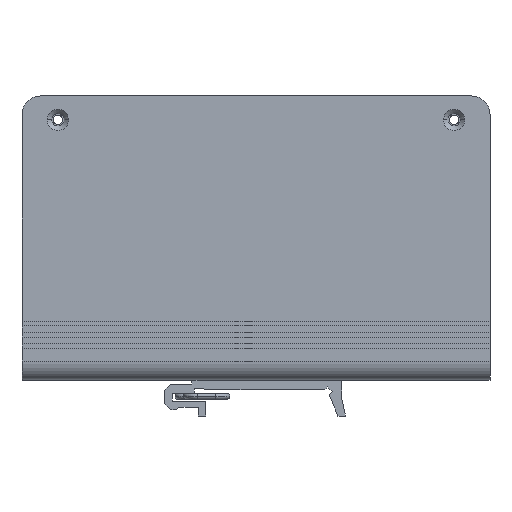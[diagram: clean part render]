
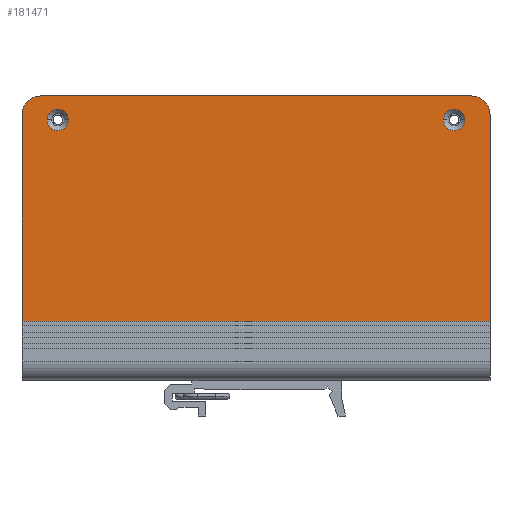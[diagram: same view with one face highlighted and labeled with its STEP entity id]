
A CAD part, front view. The second image highlights one B-rep face of the part: STEP entity #181471.
In plain terms, the highlighted planar face has unit normal (0, -1, 0).
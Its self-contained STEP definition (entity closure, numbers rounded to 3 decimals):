
#169264=DIRECTION('',(0.,0.,-1.));
#169265=VECTOR('',#169264,55.2);
#169266=CARTESIAN_POINT('',(-62.5,-19.75,33.));
#169267=LINE('',#169266,#169265);
#173453=DIRECTION('',(1.,0.,0.));
#173454=VECTOR('',#173453,125.);
#173455=CARTESIAN_POINT('',(-62.5,-19.75,-22.2));
#173456=LINE('',#173455,#173454);
#173457=CARTESIAN_POINT('',(-57.5,-19.75,33.));
#173458=DIRECTION('',(0.,1.,0.));
#173459=DIRECTION('',(-1.,0.,0.));
#173460=AXIS2_PLACEMENT_3D('',#173457,#173458,#173459);
#173462=DIRECTION('',(1.,0.,0.));
#173463=VECTOR('',#173462,115.);
#173464=CARTESIAN_POINT('',(-57.5,-19.75,38.));
#173465=LINE('',#173464,#173463);
#173466=CARTESIAN_POINT('',(57.5,-19.75,33.));
#173467=DIRECTION('',(0.,1.,0.));
#173468=DIRECTION('',(0.,0.,1.));
#173469=AXIS2_PLACEMENT_3D('',#173466,#173467,#173468);
#173471=DIRECTION('',(0.,0.,-1.));
#173472=VECTOR('',#173471,55.2);
#173473=CARTESIAN_POINT('',(62.5,-19.75,33.));
#173474=LINE('',#173473,#173472);
#173475=CARTESIAN_POINT('',(-52.9,-19.75,31.6));
#173476=DIRECTION('',(0.,-1.,0.));
#173477=DIRECTION('',(-1.,0.,0.));
#173478=AXIS2_PLACEMENT_3D('',#173475,#173476,#173477);
#173480=CARTESIAN_POINT('',(-52.9,-19.75,31.6));
#173481=DIRECTION('',(0.,-1.,0.));
#173482=DIRECTION('',(1.,0.,0.));
#173483=AXIS2_PLACEMENT_3D('',#173480,#173481,#173482);
#173485=CARTESIAN_POINT('',(52.9,-19.75,31.6));
#173486=DIRECTION('',(0.,-1.,0.));
#173487=DIRECTION('',(-1.,0.,0.));
#173488=AXIS2_PLACEMENT_3D('',#173485,#173486,#173487);
#173490=CARTESIAN_POINT('',(52.9,-19.75,31.6));
#173491=DIRECTION('',(0.,-1.,0.));
#173492=DIRECTION('',(1.,0.,0.));
#173493=AXIS2_PLACEMENT_3D('',#173490,#173491,#173492);
#175043=CARTESIAN_POINT('',(62.5,-19.75,-22.2));
#175044=VERTEX_POINT('',#175043);
#175045=CARTESIAN_POINT('',(62.5,-19.75,33.));
#175046=VERTEX_POINT('',#175045);
#175091=CARTESIAN_POINT('',(-55.75,-19.75,31.6));
#175092=CARTESIAN_POINT('',(-50.05,-19.75,31.6));
#175093=VERTEX_POINT('',#175091);
#175094=VERTEX_POINT('',#175092);
#175095=CARTESIAN_POINT('',(-62.5,-19.75,33.));
#175096=CARTESIAN_POINT('',(-57.5,-19.75,38.));
#175097=VERTEX_POINT('',#175095);
#175098=VERTEX_POINT('',#175096);
#175099=CARTESIAN_POINT('',(57.5,-19.75,38.));
#175100=VERTEX_POINT('',#175099);
#175101=CARTESIAN_POINT('',(-62.5,-19.75,-22.2));
#175102=VERTEX_POINT('',#175101);
#175103=CARTESIAN_POINT('',(50.05,-19.75,31.6));
#175104=CARTESIAN_POINT('',(55.75,-19.75,31.6));
#175105=VERTEX_POINT('',#175103);
#175106=VERTEX_POINT('',#175104);
#181443=CARTESIAN_POINT('',(62.5,-19.75,-22.2));
#181444=DIRECTION('',(0.,-1.,0.));
#181445=DIRECTION('',(0.,0.,1.));
#181446=AXIS2_PLACEMENT_3D('',#181443,#181444,#181445);
#181447=PLANE('',#181446);
#181449=ORIENTED_EDGE('',*,*,#181448,.T.);
#181451=ORIENTED_EDGE('',*,*,#181450,.T.);
#181453=ORIENTED_EDGE('',*,*,#181452,.T.);
#181454=ORIENTED_EDGE('',*,*,#176655,.T.);
#181455=ORIENTED_EDGE('',*,*,#181438,.F.);
#181456=ORIENTED_EDGE('',*,*,#175716,.F.);
#181457=EDGE_LOOP('',(#181449,#181451,#181453,#181454,#181455,#181456));
#181458=FACE_OUTER_BOUND('',#181457,.F.);
#181460=ORIENTED_EDGE('',*,*,#181459,.T.);
#181462=ORIENTED_EDGE('',*,*,#181461,.T.);
#181463=EDGE_LOOP('',(#181460,#181462));
#181464=FACE_BOUND('',#181463,.F.);
#181466=ORIENTED_EDGE('',*,*,#181465,.T.);
#181468=ORIENTED_EDGE('',*,*,#181467,.T.);
#181469=EDGE_LOOP('',(#181466,#181468));
#181470=FACE_BOUND('',#181469,.F.);
#181471=ADVANCED_FACE('',(#181458,#181464,#181470),#181447,.T.);
#173461=CIRCLE('',#173460,5.);
#173470=CIRCLE('',#173469,5.);
#173479=CIRCLE('',#173478,2.85);
#173484=CIRCLE('',#173483,2.85);
#173489=CIRCLE('',#173488,2.85);
#173494=CIRCLE('',#173493,2.85);
#175716=EDGE_CURVE('',#175097,#175102,#169267,.T.);
#176655=EDGE_CURVE('',#175046,#175044,#173474,.T.);
#181438=EDGE_CURVE('',#175102,#175044,#173456,.T.);
#181448=EDGE_CURVE('',#175097,#175098,#173461,.T.);
#181450=EDGE_CURVE('',#175098,#175100,#173465,.T.);
#181452=EDGE_CURVE('',#175100,#175046,#173470,.T.);
#181459=EDGE_CURVE('',#175093,#175094,#173479,.T.);
#181461=EDGE_CURVE('',#175094,#175093,#173484,.T.);
#181465=EDGE_CURVE('',#175105,#175106,#173489,.T.);
#181467=EDGE_CURVE('',#175106,#175105,#173494,.T.);
